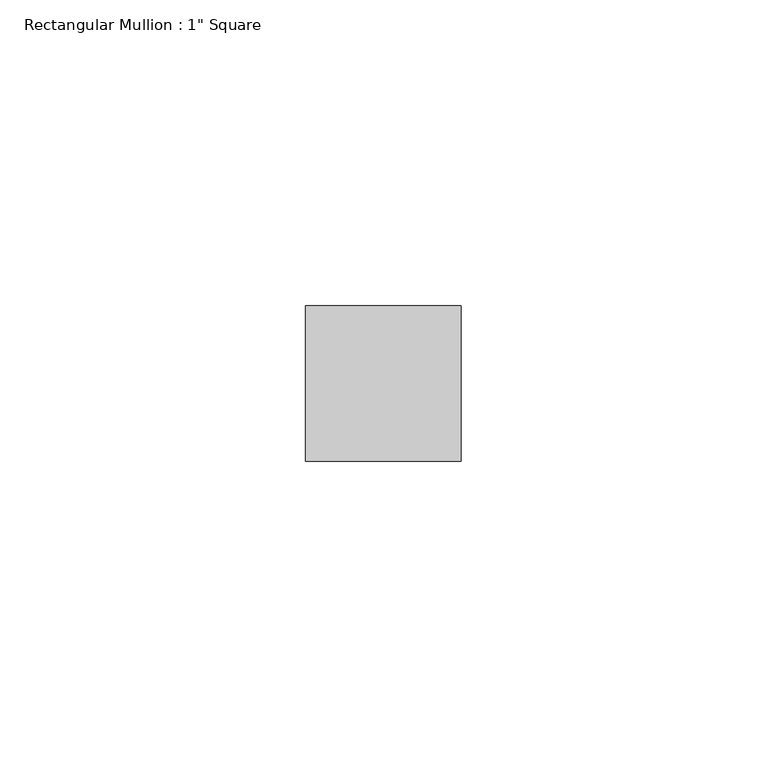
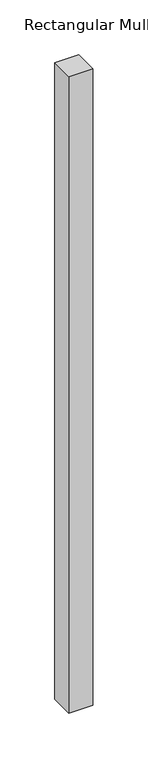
"""IFC4 building model written with IfcOpenShell, lengths in millimetres: member geometry."""

from ifc_helpers import new_model, si_unit, frame, origin, place, context, project, spatial, polyline, outline, extrude, source, transform, mapped, element, save


def member_dba39228(model_context):
    return source(origin(), model_context, "Body", "SweptSolid", [
        extrude(outline(polyline([(12.7, 44.45), (12.7, 19.05), (-12.7, 19.05), (-12.7, 44.45), (12.7, 44.45)])), frame((0.0, 0.0, -708.4218752), z_axis=(0.0, 0.0, 1.0), x_axis=(1.0, 0.0, 0.0)), (0.0, 0.0, 1.0), 708.4218752),
    ])


if __name__ == "__main__":
    model = new_model("IFC4")
    model_context = context("Model", 3, world=origin())
    ifc_project = project(units=[si_unit("LENGTHUNIT", "METRE", prefix="MILLI")], contexts=[model_context])
    site = spatial("IfcSite", under=ifc_project)
    building = spatial("IfcBuilding", under=site)
    placement = place(None, origin())
    member_shape = member_dba39228(model_context)
    element("IfcMember", 1, ObjectType="Rectangular Mullion : 1\" Square", at=placement, inside=building, context=model_context, shape_type="MappedRepresentation", body=[
        mapped(member_shape, transform((0.0, 0.0, 0.0), x_axis=(1.0, 0.0, 0.0), y_axis=(0.0, 1.0, 0.0), z_axis=(0.0, 0.0, 1.0))),
    ])
    save(model, "model.ifc")
